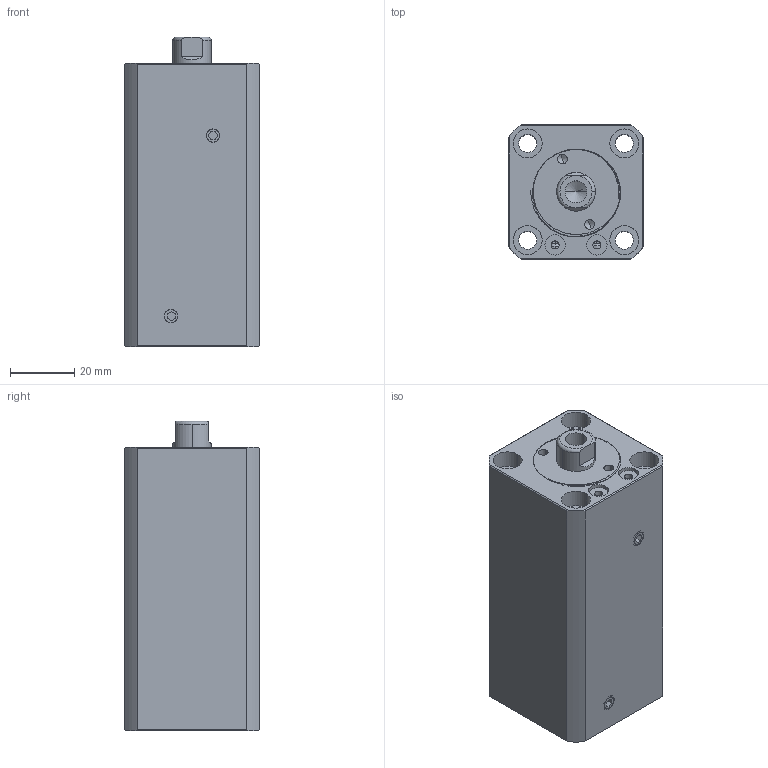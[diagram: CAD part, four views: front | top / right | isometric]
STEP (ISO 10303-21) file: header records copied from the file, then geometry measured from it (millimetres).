
FILE_DESCRIPTION (( 'STEP AP214' ), '1' );
FILE_NAME ('chtb-sdma20x45n_asm.STEP', '2018-05-18T05:58:38', ( '' ), ( '' ), 'SwSTEP 2.0', 'SolidWorks 2016', '' );
FILE_SCHEMA (( 'AUTOMOTIVE_DESIGN' ));
Length unit declared in the file: millimetre
Products named in the file (5): socket set screw flat point_iso_ISO 4026 - M5 x 5-N; QG_3; CHTB-SDMA20X45NHSG; CHTB-SDMA20X45NBT; chtb-sdma20x45n_asm
Assembly tree (5 placements, depth 2):
  chtb-sdma20x45n_asm
    CHTB-SDMA20X45NBT
    CHTB-SDMA20X45NHSG
    QG_3
    socket set screw flat point_iso_ISO 4026 - M5 x 5-N  x2
Bounding box: 42 x 42 x 96 mm (x, y, z)
Volume: 131357 mm3; surface area: 40016.3 mm2
Topology: 5 solids, 5 shells, 232 faces, 602 edges, 396 vertices
Faces by surface type: cylinder 111, plane 61, torus 25, bspline 21, cone 14
Entity records: 12042 total; most frequent: CARTESIAN_POINT 6742, ORIENTED_EDGE 1128, DIRECTION 1000, EDGE_CURVE 564, AXIS2_PLACEMENT_3D 415, VERTEX_POINT 376, EDGE_LOOP 256, FACE_OUTER_BOUND 217
